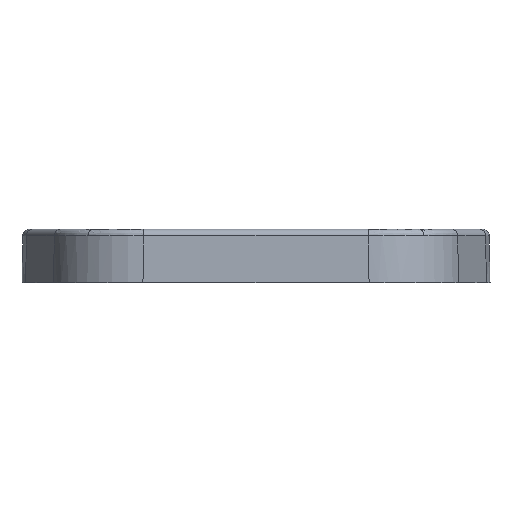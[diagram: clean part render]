
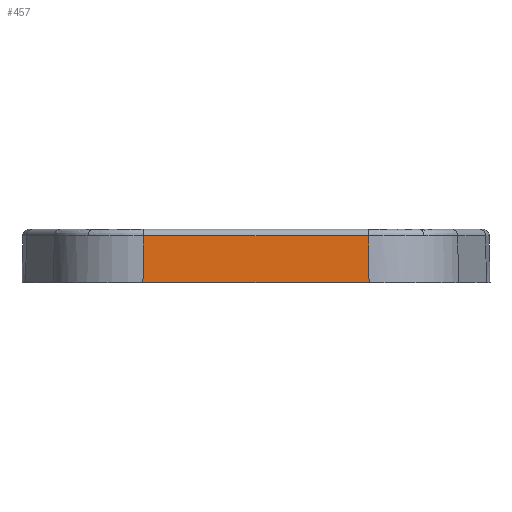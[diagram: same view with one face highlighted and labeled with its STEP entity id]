
A CAD part, left-side view. The second image highlights one B-rep face of the part: STEP entity #457.
In plain terms, the highlighted planar face has unit normal (-1, 0, 0.018).
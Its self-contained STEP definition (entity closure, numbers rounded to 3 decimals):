
#45 = DIRECTION ( 'NONE',  ( -0.017, 0.013, -1. ) ) ;
#96 = CARTESIAN_POINT ( 'NONE',  ( -13.4, 8.454, 0. ) ) ;
#114 = CARTESIAN_POINT ( 'NONE',  ( -13.395, -8.45, 0.283 ) ) ;
#141 = VECTOR ( 'NONE', #1020, 1000. ) ;
#202 = LINE ( 'NONE', #114, #141 ) ;
#411 = CARTESIAN_POINT ( 'NONE',  ( -13.339, 8.403, 3.509 ) ) ;
#457 = ADVANCED_FACE ( 'NONE', ( #480 ), #666, .T. ) ;
#480 = FACE_OUTER_BOUND ( 'NONE', #837, .T. ) ;
#569 = LINE ( 'NONE', #411, #622 ) ;
#590 = DIRECTION ( 'NONE',  ( 0., 1., 0. ) ) ;
#603 = CARTESIAN_POINT ( 'NONE',  ( -13.339, 8.409, 3.509 ) ) ;
#622 = VECTOR ( 'NONE', #590, 1000. ) ;
#640 = DIRECTION ( 'NONE',  ( 0.017, 0., 1. ) ) ;
#649 = LINE ( 'NONE', #1112, #678 ) ;
#650 = DIRECTION ( 'NONE',  ( -1., 0., 0.017 ) ) ;
#666 = PLANE ( 'NONE',  #2083 ) ;
#678 = VECTOR ( 'NONE', #45, 1000. ) ;
#694 = CARTESIAN_POINT ( 'NONE',  ( -13.4, 13.6, 0. ) ) ;
#826 = VERTEX_POINT ( 'NONE', #603 ) ;
#837 = EDGE_LOOP ( 'NONE', ( #1820, #2181, #914, #1326 ) ) ;
#914 = ORIENTED_EDGE ( 'NONE', *, *, #1944, .T. ) ;
#971 = DIRECTION ( 'NONE',  ( 0., -1., 0. ) ) ;
#1020 = DIRECTION ( 'NONE',  ( 0.017, 0.013, 1. ) ) ;
#1112 = CARTESIAN_POINT ( 'NONE',  ( -13.401, 8.455, -0.066 ) ) ;
#1222 = VERTEX_POINT ( 'NONE', #96 ) ;
#1230 = CARTESIAN_POINT ( 'NONE',  ( -13.4, -8.454, 0. ) ) ;
#1326 = ORIENTED_EDGE ( 'NONE', *, *, #1634, .T. ) ;
#1397 = VERTEX_POINT ( 'NONE', #1230 ) ;
#1487 = VECTOR ( 'NONE', #971, 1000. ) ;
#1519 = LINE ( 'NONE', #1559, #1487 ) ;
#1559 = CARTESIAN_POINT ( 'NONE',  ( -13.4, 13.6, 0. ) ) ;
#1634 = EDGE_CURVE ( 'NONE', #1222, #1397, #1519, .T. ) ;
#1820 = ORIENTED_EDGE ( 'NONE', *, *, #2158, .T. ) ;
#1944 = EDGE_CURVE ( 'NONE', #826, #1222, #649, .T. ) ;
#2007 = VERTEX_POINT ( 'NONE', #2051 ) ;
#2051 = CARTESIAN_POINT ( 'NONE',  ( -13.339, -8.409, 3.509 ) ) ;
#2064 = EDGE_CURVE ( 'NONE', #2007, #826, #569, .T. ) ;
#2083 = AXIS2_PLACEMENT_3D ( 'NONE', #694, #650, #640 ) ;
#2158 = EDGE_CURVE ( 'NONE', #1397, #2007, #202, .T. ) ;
#2181 = ORIENTED_EDGE ( 'NONE', *, *, #2064, .T. ) ;
